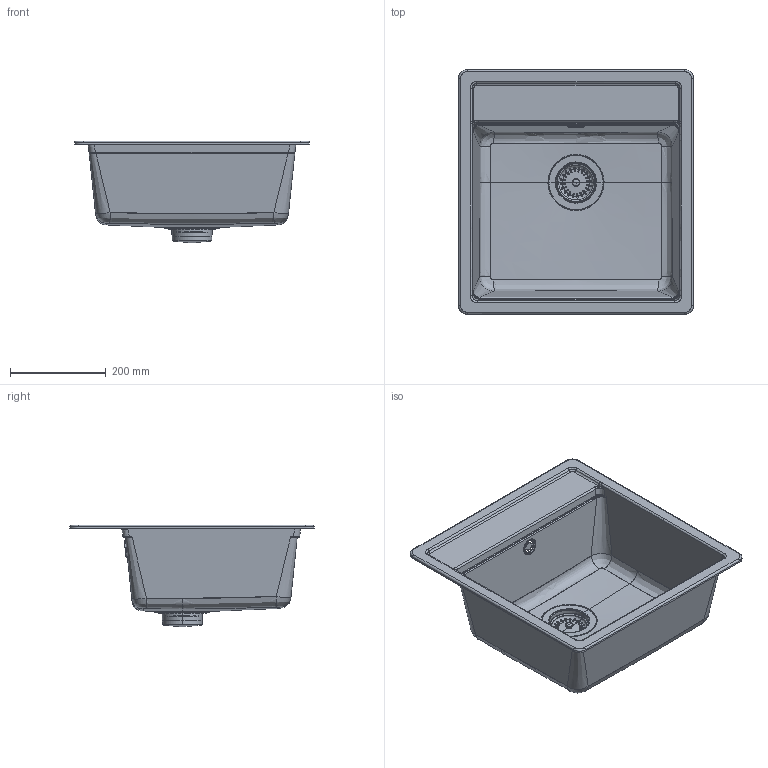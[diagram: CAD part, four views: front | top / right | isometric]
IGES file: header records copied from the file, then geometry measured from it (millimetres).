
Global section: file name: /Volumes/__KUNDEN/____01_SCHOCK/____projekte_schock/__RENDERINGS/__SPUELEN/02_3D Daten/02_PERSPEKTIVEN/Rhino/_SPU; native system: Rhinoceros ( Aug 27 2014 ); preprocessor: Trout Lake IGES 012 Aug 27 2014; date: 141104.092201; units: millimetre
Bounding box: 490 x 510 x 212.25 mm (x, y, z)
Surface area: 519311.3 mm2 (no closed solid volume)
Topology: 0 solids, 0 shells, 344 faces, 39669 edges, 39659 vertices
Faces by surface type: bspline 344
